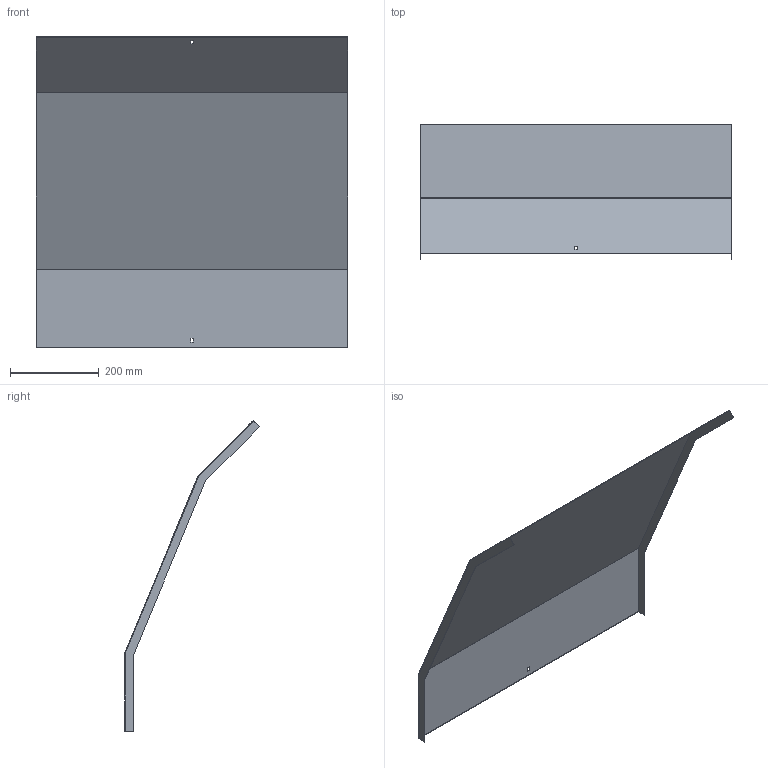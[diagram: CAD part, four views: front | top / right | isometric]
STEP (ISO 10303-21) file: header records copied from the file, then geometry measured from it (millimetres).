
FILE_DESCRIPTION (( 'STEP AP214' ), '1' );
FILE_NAME ('34N5J700.step', '2025-02-21T10:33:57', ( '' ), ( '' ), 'SwSTEP 2.0', 'SolidWorks 2023', '' );
FILE_SCHEMA (( 'AUTOMOTIVE_DESIGN' ));
Length unit declared in the file: millimetre
Products named in the file (1): 34N5J700
Bounding box: 703 x 304.65 x 701.34 mm (x, y, z)
Volume: 871084 mm3; surface area: 1166070.1 mm2
Topology: 1 solids, 1 shells, 26 faces, 72 edges, 48 vertices
Faces by surface type: plane 26
Entity records: 847 total; most frequent: CARTESIAN_POINT 147, ORIENTED_EDGE 144, DIRECTION 126, LINE 72, EDGE_CURVE 72, VECTOR 72, VERTEX_POINT 48, EDGE_LOOP 30
